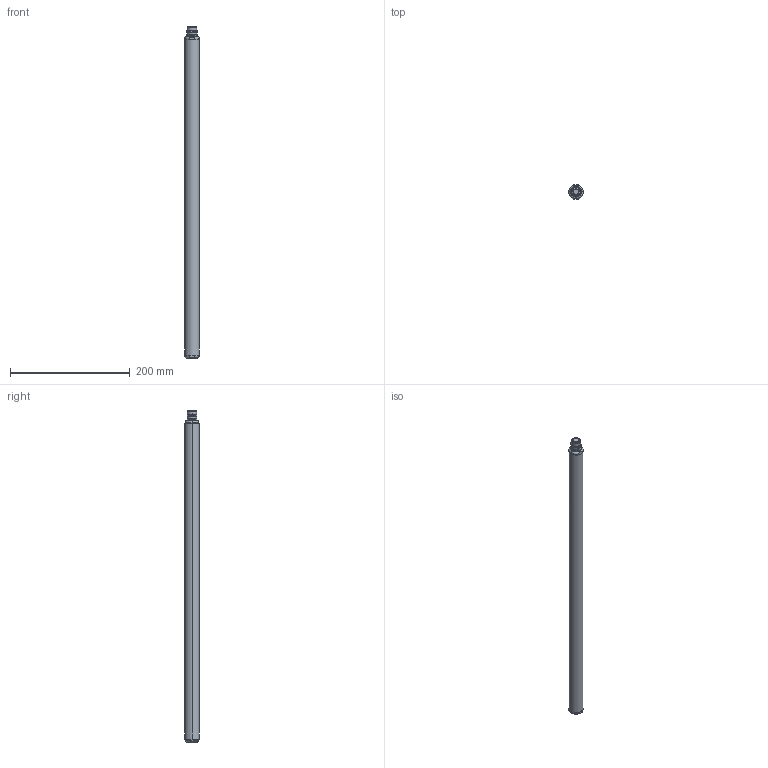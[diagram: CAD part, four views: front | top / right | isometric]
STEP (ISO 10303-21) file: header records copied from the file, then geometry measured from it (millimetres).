
FILE_DESCRIPTION((''),'2;1');
FILE_NAME('TNC_555_SW0001','2025-07-28T11:35:21',('Piccioli'),(''),'CREO PARAMETRIC BY PTC INC, 2025010','CREO PARAMETRIC BY PTC INC, 2025010','');
FILE_SCHEMA(('CONFIG_CONTROL_DESIGN'));
Length unit declared in the file: millimetre
Products named in the file (1): TNC_555_SW0001
Bounding box: 24 x 24 x 554 mm (x, y, z)
Surface area: 42285.9 mm2 (no closed solid volume)
Topology: 0 solids, 5 shells, 111 faces, 308 edges, 171 vertices
Faces by surface type: cylinder 52, plane 20, sphere 18, bspline 12, torus 9
Entity records: 4004 total; most frequent: CARTESIAN_POINT 1274, DIRECTION 626, ORIENTED_EDGE 505, EDGE_CURVE 290, AXIS2_PLACEMENT_3D 259, VERTEX_POINT 171, CIRCLE 160, EDGE_LOOP 111
